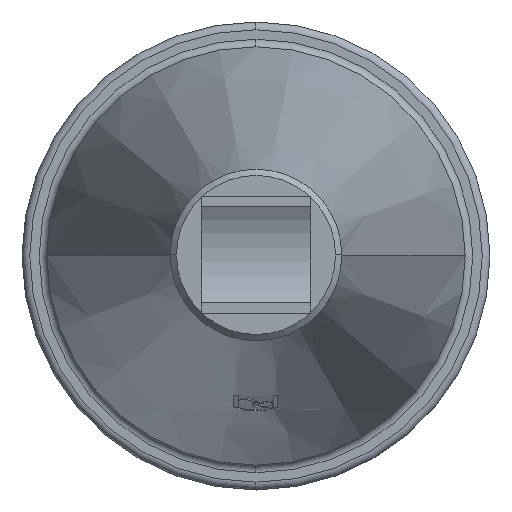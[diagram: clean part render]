
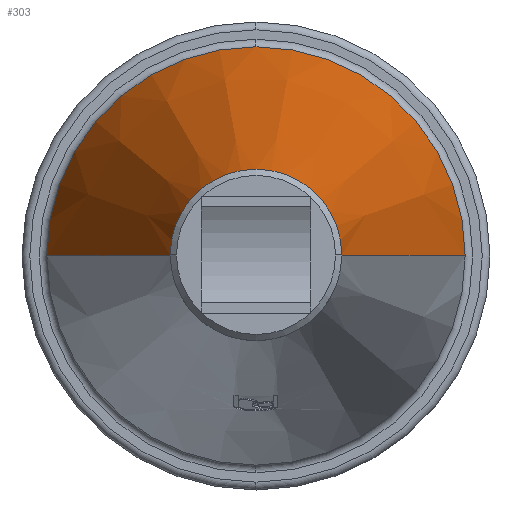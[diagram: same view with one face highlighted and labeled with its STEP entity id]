
A CAD part, top view. The second image highlights one B-rep face of the part: STEP entity #303.
In plain terms, the highlighted conical face has half-angle 13.35 degrees and reference radius 94.544 mm.
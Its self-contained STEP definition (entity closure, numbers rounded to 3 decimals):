
#303=ADVANCED_FACE('',(#637),#638,.T.);
#637=FACE_OUTER_BOUND('',#1040,.T.);
#638=CONICAL_SURFACE('',#1041,94.544,0.233);
#1040=EDGE_LOOP('',(#1726,#1727,#1728,#1729,#1730));
#1041=AXIS2_PLACEMENT_3D('',#1731,#1732,#1733);
#1726=ORIENTED_EDGE('',*,*,#2373,.T.);
#1727=ORIENTED_EDGE('',*,*,#2489,.F.);
#1728=ORIENTED_EDGE('',*,*,#2354,.F.);
#1729=ORIENTED_EDGE('',*,*,#2375,.T.);
#1730=ORIENTED_EDGE('',*,*,#2490,.T.);
#1731=CARTESIAN_POINT('',(440.193,470.692,-69.094));
#1732=DIRECTION('',(0.,0.,-1.0));
#1733=DIRECTION('',(1.0,0.,0.));
#2354=EDGE_CURVE('',#2788,#2790,#2791,.T.);
#2373=EDGE_CURVE('',#2823,#2824,#2825,.T.);
#2375=EDGE_CURVE('',#2788,#2826,#2828,.T.);
#2489=EDGE_CURVE('',#2790,#2824,#3001,.T.);
#2490=EDGE_CURVE('',#2826,#2823,#3002,.T.);
#2788=VERTEX_POINT('',#3392);
#2790=VERTEX_POINT('',#3394);
#2791=CIRCLE('',#3395,134.087);
#2823=VERTEX_POINT('',#3458);
#2824=VERTEX_POINT('',#3459);
#2825=LINE('',#3460,#3461);
#2826=VERTEX_POINT('',#3462);
#2828=LINE('',#3464,#3465);
#3001=CIRCLE('',#4020,134.087);
#3002=CIRCLE('',#4021,55.0);
#3392=CARTESIAN_POINT('',(306.106,470.692,-235.729));
#3394=CARTESIAN_POINT('',(440.193,604.78,-235.729));
#3395=AXIS2_PLACEMENT_3D('',#4542,#4543,#4544);
#3458=CARTESIAN_POINT('',(495.193,470.692,97.541));
#3459=CARTESIAN_POINT('',(574.281,470.692,-235.729));
#3460=CARTESIAN_POINT('',(534.737,470.692,-69.094));
#3461=VECTOR('',#4566,1.0);
#3462=CARTESIAN_POINT('',(385.193,470.692,97.541));
#3464=CARTESIAN_POINT('',(345.649,470.692,-69.094));
#3465=VECTOR('',#4570,1.0);
#4020=AXIS2_PLACEMENT_3D('',#4678,#4679,#4680);
#4021=AXIS2_PLACEMENT_3D('',#4681,#4682,#4683);
#4542=CARTESIAN_POINT('',(440.193,470.692,-235.729));
#4543=DIRECTION('',(0.,0.,-1.0));
#4544=DIRECTION('',(1.0,0.,0.));
#4566=DIRECTION('',(0.231,0.,-0.973));
#4570=DIRECTION('',(0.231,0.,0.973));
#4678=CARTESIAN_POINT('',(440.193,470.692,-235.729));
#4679=DIRECTION('',(0.,0.,-1.0));
#4680=DIRECTION('',(1.0,0.,0.));
#4681=CARTESIAN_POINT('',(440.193,470.692,97.541));
#4682=DIRECTION('',(0.,0.,-1.0));
#4683=DIRECTION('',(1.0,0.,0.));
